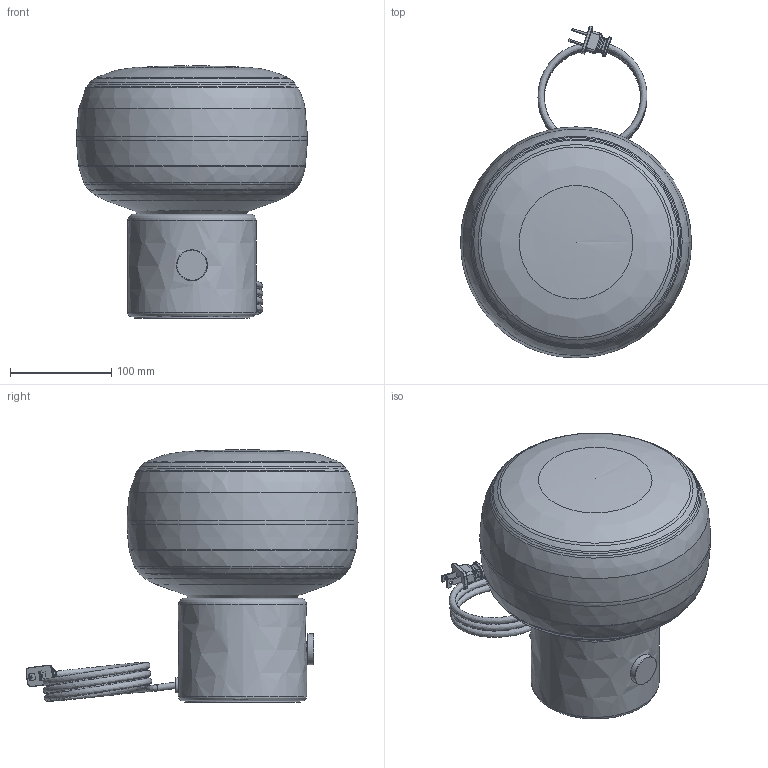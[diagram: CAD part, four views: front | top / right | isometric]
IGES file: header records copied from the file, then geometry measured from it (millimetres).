
Global section: file name: Arca Tall - Ionic Table Lamp; native system: unknown; preprocessor: unknown; author: unknown; organization: unknown; date: 20240726.160800; units: inch
Bounding box: 228.6 x 328.65 x 250.07 mm (x, y, z)
Volume: 1303448.5 mm3; surface area: 572832.6 mm2
Topology: 17 solids, 17 shells, 2034 faces, 5432 edges, 3578 vertices
Faces by surface type: bspline 2033, revolution 1
